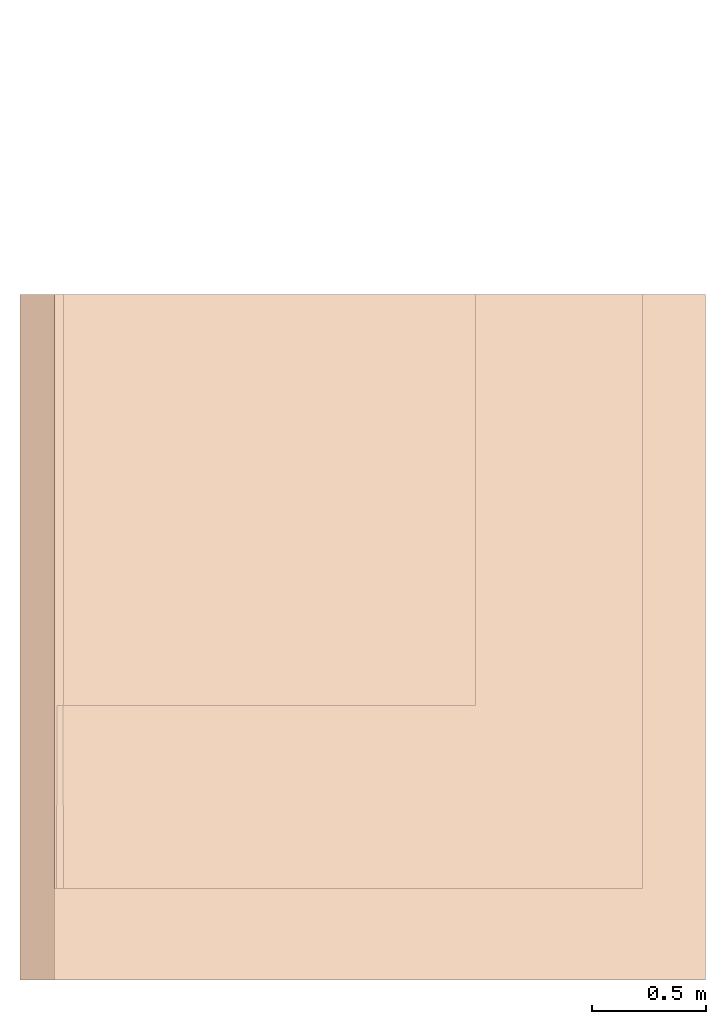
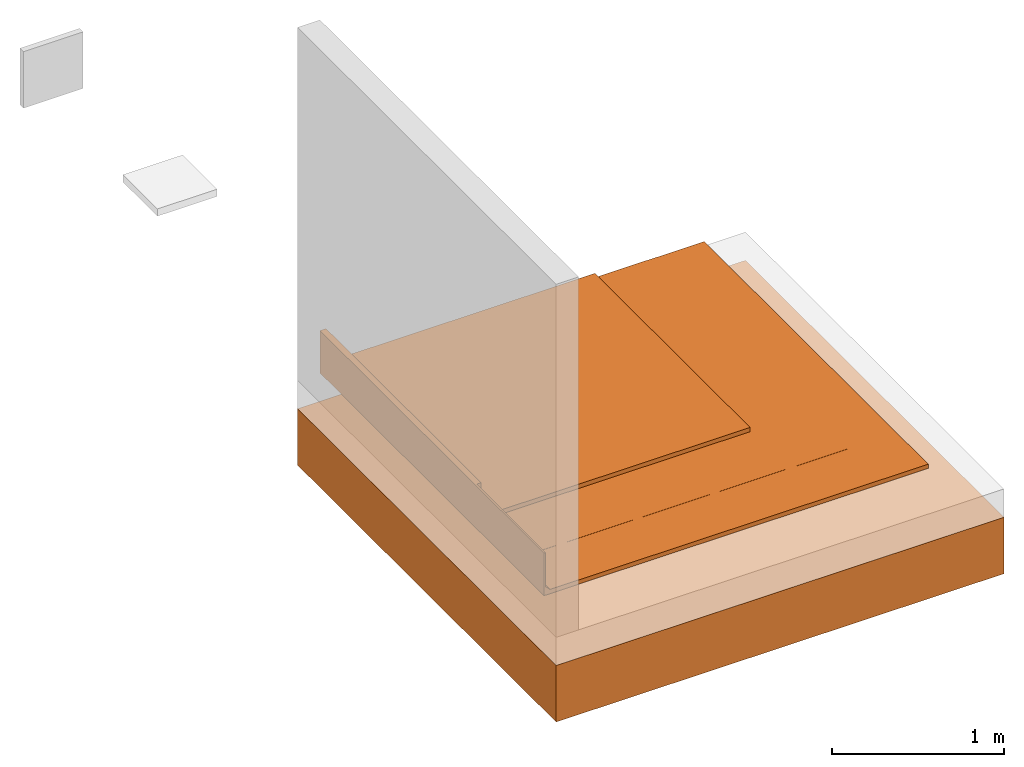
# One storey, part 2 of 2: 1 proxy.
"""IFC2X3 building model written with IfcOpenShell, lengths in metres."""

from ifc_helpers import new_model, entity, si_unit, converted_unit, derived_unit, direction, frame, frame_2d, origin, origin_2d_with_axis, place, context, subcontext, project, spatial, polyline, circle_curve, parameter, trimmed, segment, composite_curve, rectangle, outline, extrude, source, transform, mapped, material, material_list, type_object, type_shapes, element, save


model = new_model("IFC2X3")

# Units and contexts
model_context = context("Model", 3, precision=1e-05, world=origin(), true_north=direction((6.123031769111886e-17, 1.0)))
body_context = subcontext(model_context, "Body", "Model", "MODEL_VIEW")
ifc_project = project(units=[si_unit("LENGTHUNIT", "METRE"), si_unit("AREAUNIT", "SQUARE_METRE"), si_unit("VOLUMEUNIT", "CUBIC_METRE"), converted_unit("PLANEANGLEUNIT", "DEGREE", entity("IfcRatioMeasure", 0.017453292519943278), si_unit("PLANEANGLEUNIT", "RADIAN"), dimensions=[0, 0, 0, 0, 0, 0, 0]), si_unit("MASSUNIT", "GRAM", prefix="KILO"), derived_unit("MASSDENSITYUNIT", [(si_unit("MASSUNIT", "GRAM", prefix="KILO"), 1), (si_unit("LENGTHUNIT", "METRE"), -3)]), derived_unit("IONCONCENTRATIONUNIT", [(si_unit("MASSUNIT", "GRAM", prefix="KILO"), 1), (si_unit("LENGTHUNIT", "METRE"), -3)]), derived_unit("MOMENTOFINERTIAUNIT", [(si_unit("LENGTHUNIT", "METRE"), 4)]), si_unit("TIMEUNIT", "SECOND"), si_unit("FREQUENCYUNIT", "HERTZ"), si_unit("THERMODYNAMICTEMPERATUREUNIT", "DEGREE_CELSIUS"), derived_unit("THERMALTRANSMITTANCEUNIT", [(si_unit("MASSUNIT", "GRAM", prefix="KILO"), 1), (si_unit("THERMODYNAMICTEMPERATUREUNIT", "KELVIN"), -1), (si_unit("TIMEUNIT", "SECOND"), -3)]), derived_unit("THERMALCONDUCTANCEUNIT", [(si_unit("MASSUNIT", "GRAM", prefix="KILO"), 1), (si_unit("THERMODYNAMICTEMPERATUREUNIT", "KELVIN"), -1), (si_unit("TIMEUNIT", "SECOND"), -3), (si_unit("LENGTHUNIT", "METRE"), 1)]), derived_unit("VOLUMETRICFLOWRATEUNIT", [(si_unit("LENGTHUNIT", "METRE"), 3), (si_unit("TIMEUNIT", "SECOND"), -1)]), derived_unit("MASSFLOWRATEUNIT", [(si_unit("MASSUNIT", "GRAM", prefix="KILO"), 1), (si_unit("TIMEUNIT", "SECOND"), -1)]), derived_unit("ROTATIONALFREQUENCYUNIT", [(si_unit("TIMEUNIT", "SECOND"), -1)]), si_unit("ELECTRICCURRENTUNIT", "AMPERE"), si_unit("ELECTRICVOLTAGEUNIT", "VOLT"), si_unit("POWERUNIT", "WATT"), si_unit("FORCEUNIT", "NEWTON", prefix="KILO"), si_unit("ILLUMINANCEUNIT", "LUX"), si_unit("LUMINOUSFLUXUNIT", "LUMEN"), si_unit("LUMINOUSINTENSITYUNIT", "CANDELA"), derived_unit("USERDEFINED", [(si_unit("MASSUNIT", "GRAM", prefix="KILO"), -1), (si_unit("LENGTHUNIT", "METRE"), -2), (si_unit("TIMEUNIT", "SECOND"), 3), (si_unit("LUMINOUSFLUXUNIT", "LUMEN"), 1)]), derived_unit("USERDEFINED", [(si_unit("MASSUNIT", "GRAM", prefix="KILO"), 1), (si_unit("TIMEUNIT", "SECOND"), -3), (si_unit("LENGTHUNIT", "METRE"), 3), (si_unit("ELECTRICCURRENTUNIT", "AMPERE"), -2)]), derived_unit("SOUNDPOWERUNIT", [(si_unit("MASSUNIT", "GRAM", prefix="KILO"), 1), (si_unit("TIMEUNIT", "SECOND"), -3), (si_unit("LENGTHUNIT", "METRE"), 2)]), derived_unit("SOUNDPRESSUREUNIT", [(si_unit("MASSUNIT", "GRAM", prefix="KILO"), 1), (si_unit("LENGTHUNIT", "METRE"), -1), (si_unit("TIMEUNIT", "SECOND"), -2)]), derived_unit("LINEARVELOCITYUNIT", [(si_unit("LENGTHUNIT", "METRE"), 1), (si_unit("TIMEUNIT", "SECOND"), -1)]), si_unit("PRESSUREUNIT", "PASCAL"), derived_unit("USERDEFINED", [(si_unit("MASSUNIT", "GRAM", prefix="KILO"), 1), (si_unit("LENGTHUNIT", "METRE"), -2), (si_unit("TIMEUNIT", "SECOND"), -2)]), derived_unit("LINEARFORCEUNIT", [(si_unit("MASSUNIT", "GRAM", prefix="KILO"), 1), (si_unit("TIMEUNIT", "SECOND"), -2)]), derived_unit("PLANARFORCEUNIT", [(si_unit("MASSUNIT", "GRAM", prefix="KILO"), 1), (si_unit("LENGTHUNIT", "METRE"), -1), (si_unit("TIMEUNIT", "SECOND"), -2)]), derived_unit("SPECIFICHEATCAPACITYUNIT", [(si_unit("THERMODYNAMICTEMPERATUREUNIT", "KELVIN"), -1), (si_unit("LENGTHUNIT", "METRE"), 2), (si_unit("TIMEUNIT", "SECOND"), -2)]), derived_unit("HEATINGVALUEUNIT", [(si_unit("LENGTHUNIT", "METRE"), 2), (si_unit("TIMEUNIT", "SECOND"), -2)]), derived_unit("VAPORPERMEABILITYUNIT", [(si_unit("LENGTHUNIT", "METRE"), -1), (si_unit("TIMEUNIT", "SECOND"), 1)]), derived_unit("DYNAMICVISCOSITYUNIT", [(si_unit("MASSUNIT", "GRAM", prefix="KILO"), 1), (si_unit("TIMEUNIT", "SECOND"), -1), (si_unit("LENGTHUNIT", "METRE"), -1)]), derived_unit("THERMALEXPANSIONCOEFFICIENTUNIT", [(si_unit("THERMODYNAMICTEMPERATUREUNIT", "KELVIN"), -1)]), derived_unit("MODULUSOFELASTICITYUNIT", [(si_unit("MASSUNIT", "GRAM", prefix="KILO"), 1), (si_unit("LENGTHUNIT", "METRE"), -1), (si_unit("TIMEUNIT", "SECOND"), -2)]), derived_unit("ISOTHERMALMOISTURECAPACITYUNIT", [(si_unit("LENGTHUNIT", "METRE"), 3), (si_unit("MASSUNIT", "GRAM", prefix="KILO"), -1)]), derived_unit("MOISTUREDIFFUSIVITYUNIT", [(si_unit("TIMEUNIT", "SECOND"), -1), (si_unit("LENGTHUNIT", "METRE"), 2)])], contexts=[model_context])

# Site, building, storey
site_placement = place(None, origin())
site = spatial("IfcSite", under=ifc_project, at=site_placement, Name="Default", CompositionType="ELEMENT")
building_placement = place(site_placement, origin())
building = spatial("IfcBuilding", under=site, at=building_placement, CompositionType="ELEMENT")
storey_placement = place(building_placement, frame((0.0, 0.0, -0.0025237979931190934)))
storey = spatial("IfcBuildingStorey", under=building, at=storey_placement, Name="ARQ Térreo", CompositionType="ELEMENT", Elevation=-0.0025237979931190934)

# Proxy
ifc_material_1 = material(Name="#argamassa")
ifc_material_2 = material(Name="#Viaplus 1000")
ifc_material_3 = material(Name="#Proteção Mecânica")
ifc_material_4 = material(Name="#solo")
ifc_material_list = material_list([ifc_material_1, ifc_material_2, ifc_material_3, ifc_material_4])
building_element_proxy_type = type_object("IfcBuildingElementProxyType", Name="IMPER:IMPER", PredefinedType="NOTDEFINED", material=ifc_material_list)
shared_shape = source(origin(), body_context, "Body", "SweptSolid", [
    extrude(rectangle(XDim=2.5999999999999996, YDim=0.009999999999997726, at=origin_2d_with_axis()), frame((-0.34697041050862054, -1.1541299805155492, -0.0025237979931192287), z_axis=(0.0, 0.0, 1.0), x_axis=(0.0, -1.0, 0.0)), (0.0, 0.0, 1.0), 0.2999999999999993),
    extrude(outline(composite_curve([segment(polyline([(-1.0015321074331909, -0.006000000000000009), (1.532298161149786, -0.0060000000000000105)]), True, "CONTINUOUS"), segment(polyline([(1.532298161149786, -0.0060000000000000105), (1.532298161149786, 0.023999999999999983)]), True, "CONTINUOUS"), segment(polyline([(1.532298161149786, 0.023999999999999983), (-1.0315321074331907, 0.023999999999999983)]), True, "CONTINUOUS"), segment(polyline([(-1.0315321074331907, 0.02399999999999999), (-1.031532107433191, -0.03599999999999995)]), True, "CONTINUOUS"), segment(trimmed(circle_curve(frame_2d((-1.001532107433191, -0.036000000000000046), x_axis=(1.0, 0.0)), 0.030000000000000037), [parameter(90.00000000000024)], [parameter(179.99999999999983)], True, "PARAMETER"), False, "CONTINUOUS")], self_intersect=False)), frame((0.689561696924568, -2.454129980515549, 0.021476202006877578), z_axis=(0.0, 1.0, 0.0), x_axis=(1.0, 0.0, 0.0)), (0.0, 0.0, 1.0), 2.6000000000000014),
    extrude(outline(composite_curve([segment(polyline([(-0.5643418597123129, -0.04596503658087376), (-0.5643418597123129, 0.1948448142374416)]), True, "CONTINUOUS"), segment(polyline([(-0.5643418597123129, 0.1948448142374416), (-0.5653531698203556, 0.1948448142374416)]), True, "CONTINUOUS"), segment(polyline([(-0.5653531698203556, 0.1948448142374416), (-0.5653531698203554, -0.04515518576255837)]), True, "CONTINUOUS"), segment(trimmed(circle_curve(frame_2d((-0.5353531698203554, -0.04515518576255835), x_axis=(1.0, 0.0)), 0.030000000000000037), [parameter(179.99999999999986)], [parameter(270.00000000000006)], True, "PARAMETER"), True, "CONTINUOUS"), segment(polyline([(-0.5353531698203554, -0.07515518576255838), (1.665658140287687, -0.07515518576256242)]), True, "CONTINUOUS"), segment(polyline([(1.665658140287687, -0.07515518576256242), (1.665658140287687, -0.07412951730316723)]), True, "CONTINUOUS"), segment(polyline([(1.665658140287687, -0.07412951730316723), (-0.5365730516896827, -0.0741295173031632)]), True, "CONTINUOUS"), segment(trimmed(circle_curve(frame_2d((-0.5353531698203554, -0.04515518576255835), x_axis=(1.0, 0.0)), 0.029000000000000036), [parameter(181.60024369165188)], [parameter(267.58914788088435)], True, "PARAMETER"), False, "CONTINUOUS")], self_intersect=False)), frame((0.22338275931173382, -2.087929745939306, 0.10263138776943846), z_axis=(0.0, -1.0, 0.0), x_axis=(1.0, 0.0, 0.0)), (0.0, 0.0, -1.0), 2.233799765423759),
    extrude(outline(composite_curve([segment(polyline([(-0.505491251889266, 0.059245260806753), (1.2955707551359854, 0.059245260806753)]), True, "CONTINUOUS"), segment(polyline([(1.2955707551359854, 0.059245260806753), (1.2955707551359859, 0.08924526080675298)]), True, "CONTINUOUS"), segment(polyline([(1.2955707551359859, 0.08924526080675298), (-0.509176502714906, 0.08924526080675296)]), True, "CONTINUOUS"), segment(trimmed(circle_curve(frame_2d((-0.5064750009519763, 0.060270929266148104), x_axis=(1.0, 0.0)), 0.02910000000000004), [parameter(95.32673016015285)], [parameter(175.65204214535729)], True, "PARAMETER"), True, "CONTINUOUS"), segment(polyline([(-0.535491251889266, 0.06247709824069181), (-0.5354912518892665, -0.1797290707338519)]), True, "CONTINUOUS"), segment(polyline([(-0.5354912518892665, -0.1797290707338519), (-0.5054912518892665, -0.17972907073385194)]), True, "CONTINUOUS"), segment(polyline([(-0.5054912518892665, -0.17972907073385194), (-0.505491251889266, 0.059245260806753)]), True, "CONTINUOUS")], self_intersect=False)), frame((0.19450459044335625, -1.6541299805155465, 0.11774713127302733), z_axis=(0.0, 1.0, 0.0), x_axis=(1.0, 0.0, 0.0)), (0.0, 0.0, 1.0), 1.7999999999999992),
    extrude(rectangle(XDim=3.0000000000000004, YDim=3.0000000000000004, at=origin_2d_with_axis()), frame((0.9980295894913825, -1.3541299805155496, -0.602523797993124), z_axis=(0.0, 0.0, 1.0), x_axis=(-1.0, 0.0, 0.0)), (0.0, 0.0, 1.0), 0.4),
])
type_shapes(building_element_proxy_type, [shared_shape])
proxy_placement = place(storey_placement, frame((0.0, 0.0, 0.0025237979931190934)))
element("IfcBuildingElementProxy", 1, at=proxy_placement, inside=storey, type_object=building_element_proxy_type, material=ifc_material_list, Name="IMPER:IMPER:IMPER : IMPER:IMPER", ObjectType="IMPER:IMPER:IMPER : IMPER:IMPER", context=body_context, shape_type="MappedRepresentation", body=[
    mapped(shared_shape, transform((0.0, 0.0, 0.0), scale=1.0)),
])

save(model, "model.ifc")
